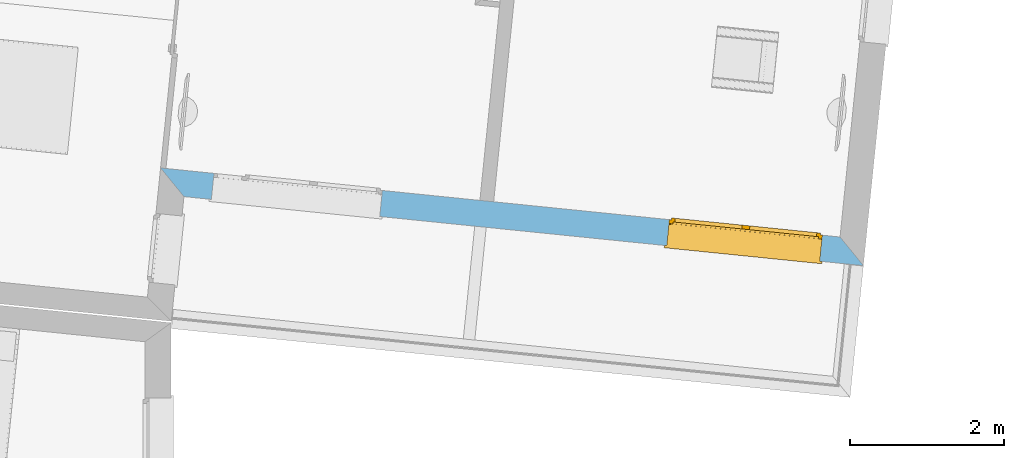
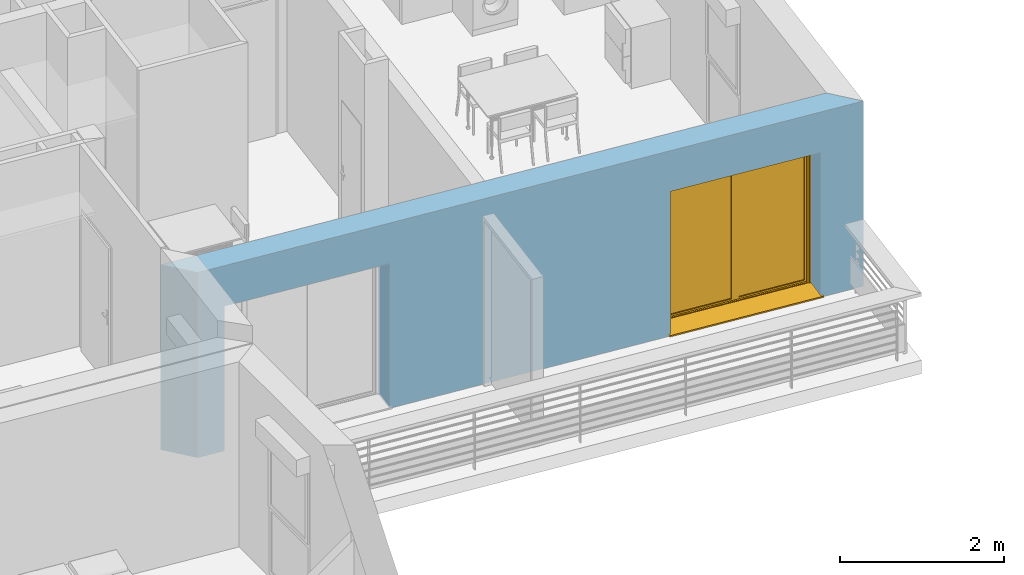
# One storey, part 54 of 164: 1 window, 2 openings, plus 1 element that does not belong to this part.
"""IFC2X3 building model written with IfcOpenShell, lengths in millimetres."""

from ifc_helpers import new_model, entity, si_unit, converted_unit, derived_unit, money_unit, direction, frame, origin_with_axes, place, context, subcontext, project, spatial, polyline, outline, extrude, open_shell, faceted_brep, surface_model, source, transform, mapped, material, layer, layer_set, layer_usage, type_object, element, fill, save


model = new_model("IFC2X3")

# Units and contexts
model_context = context("Model", 3, precision=0.01, world=origin_with_axes(), true_north=direction((0.0, 1.0)))
body_context = subcontext(model_context, "Body", "Model", "MODEL_VIEW")
ifc_project = project(units=[si_unit("LENGTHUNIT", "METRE", prefix="MILLI"), si_unit("AREAUNIT", "SQUARE_METRE"), si_unit("VOLUMEUNIT", "CUBIC_METRE"), converted_unit("PLANEANGLEUNIT", "DEGREE", entity("IfcPlaneAngleMeasure", 0.0174532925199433), si_unit("PLANEANGLEUNIT", "RADIAN"), dimensions=[0, 0, 0, 0, 0, 0, 0]), money_unit("USD"), converted_unit("TIMEUNIT", "Year", entity("IfcTimeMeasure", 31557600.0), si_unit("TIMEUNIT", "SECOND"), dimensions=[0, 0, 1, 0, 0, 0, 0]), si_unit("MASSUNIT", "GRAM", prefix="KILO"), si_unit("THERMODYNAMICTEMPERATUREUNIT", "DEGREE_CELSIUS"), si_unit("LUMINOUSINTENSITYUNIT", "LUMEN"), si_unit("ENERGYUNIT", "JOULE", prefix="MEGA"), derived_unit("THERMALCONDUCTANCEUNIT", [(si_unit("POWERUNIT", "WATT"), 1), (si_unit("LENGTHUNIT", "METRE"), -1), (si_unit("THERMODYNAMICTEMPERATUREUNIT", "KELVIN"), -1)]), derived_unit("SPECIFICHEATCAPACITYUNIT", [(si_unit("ENERGYUNIT", "JOULE"), 1), (si_unit("MASSUNIT", "GRAM", prefix="KILO"), -1), (si_unit("THERMODYNAMICTEMPERATUREUNIT", "KELVIN"), -1)]), derived_unit("MASSDENSITYUNIT", [(si_unit("MASSUNIT", "GRAM", prefix="KILO"), 1), (si_unit("VOLUMEUNIT", "CUBIC_METRE"), -1)])], contexts=[model_context])

# Site, building, storey
site_placement = place(None, origin_with_axes())
site = spatial("IfcSite", under=ifc_project, at=site_placement, Name="Site", CompositionType="ELEMENT")
building_placement = place(site_placement, origin_with_axes())
building = spatial("IfcBuilding", under=site, at=building_placement, Name="Bâtiment", CompositionType="ELEMENT")
storey_placement = place(building_placement, frame((0.0, 0.0, 5750.0), z_axis=(0.0, 0.0, 1.0), x_axis=(1.0, 0.0, 0.0)))
storey = spatial("IfcBuildingStorey", under=building, at=storey_placement, Name="Etage1", CompositionType="ELEMENT", Elevation=5750.0)

# Wall, openings, window
ifc_material_1 = material(Name="Parpaing 312445824")
ifc_layer_1 = layer(ifc_material_1, 180.0, ventilated="UNKNOWN")
ifc_material_2 = material(Name="Isolant styromousse 301821074")
ifc_layer_2 = layer(ifc_material_2, 160.0, ventilated="UNKNOWN")
ifc_layer_set = layer_set([ifc_layer_1, ifc_layer_2], Name="isol int 18+16 0018356637")
ifc_layer_usage = layer_usage(ifc_layer_set, "AXIS2", "POSITIVE", 0.0)
wall_type = type_object("IfcWallType", Name="isol int 18+16 0018356637 340", PredefinedType="NOTDEFINED")
wall_placement = place(storey_placement, frame((2229820.133205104, -620392.5899683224, 0.0), z_axis=(0.0, 0.0, 1.0), x_axis=(0.994875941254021, -0.1011032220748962, 0.0)))
wall = element("IfcWallStandardCase", 1, at=wall_placement, inside=storey, type_object=wall_type, material=ifc_layer_usage, Name="Mur-142", context=body_context, shape_type="SweptSolid", body=[
    extrude(outline(polyline([(0.0, 0.0), (8878.452480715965, 0.0), (8538.452480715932, 339.9999999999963), (-339.9999999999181, 339.9999999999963), (0.0, 0.0)])), origin_with_axes(), (0.0, 0.0, 1.0), 2750.0),
])
opening_1_placement = place(wall_placement, frame((1458.062560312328, 0.0, 0.0), z_axis=(0.0, 0.0, 1.0), x_axis=(1.0, 0.0, 0.0)))
element("IfcOpeningElement", 2, at=opening_1_placement, cuts=wall, Name="Fen-133", context=body_context, shape_type="Brep", body=[
    faceted_brep([(-1100.000000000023, 529.9999999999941, 2150.0), (1099.999999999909, 529.9999999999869, 2150.0), (1100.000000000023, 1234.040591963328, 2150.0), (-1099.999999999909, 1234.040591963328, 2150.0), (-1100.000000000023, 529.9999999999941, 2400.0), (1099.999999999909, 529.9999999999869, 2400.0), (1100.000000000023, 289.999999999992, 2150.0), (1100.000000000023, 289.999999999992, 0.0), (1100.000000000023, 1234.040591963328, 0.0), (-1099.999999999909, 1234.040591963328, 0.0), (-1100.000000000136, 289.9999999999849, 2150.0), (-1100.000000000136, 289.9999999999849, 0.0), (-1100.000000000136, 279.9999999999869, 2150.0), (-1100.000000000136, 279.9999999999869, 2400.0), (1100.000000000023, 279.999999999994, 2400.0), (1100.000000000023, 279.999999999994, 2150.0), (1099.999999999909, -894.0405919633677, 2150.0), (1099.999999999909, -894.0405919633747, 0.0), (-1100.000000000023, -894.0405919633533, 0.0), (-1100.000000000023, -894.0405919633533, 2150.0)], [[[0, 1, 2, 3]], [[1, 0, 4, 5]], [[1, 6, 7, 8, 2]], [[2, 8, 9, 3]], [[10, 0, 3, 9, 11]], [[0, 10, 12, 13, 4]], [[4, 13, 14, 5]], [[6, 1, 5, 14, 15]], [[6, 15, 16, 17, 7]], [[7, 17, 18, 11, 9, 8]], [[12, 10, 11, 18, 19]], [[12, 15, 14, 13]], [[15, 12, 19, 16]], [[19, 18, 17, 16]]]),
])
opening_2_placement = place(wall_placement, frame((7307.912898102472, 0.0, 0.0), z_axis=(0.0, 0.0, 1.0), x_axis=(1.0, 0.0, 0.0)))
opening_2 = element("IfcOpeningElement", 3, at=opening_2_placement, cuts=wall, Name="Fen-207", context=body_context, shape_type="Brep", body=[
    faceted_brep([(-1000.0, 529.9999999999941, 2150.0), (999.9999999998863, 529.9999999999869, 2150.0), (999.9999999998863, 1234.040591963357, 2150.0), (-1000.0, 1234.04059196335, 2150.0), (-1000.0, 529.9999999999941, 2400.0), (999.9999999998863, 529.9999999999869, 2400.0), (999.9999999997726, 289.999999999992, 2150.0), (999.9999999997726, 289.999999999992, 0.0), (999.9999999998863, 1234.040591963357, 0.0), (-1000.0, 1234.04059196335, 0.0), (-1000.000000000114, 289.9999999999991, 2150.0), (-1000.000000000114, 289.9999999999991, 0.0), (-1000.000000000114, 280.0000000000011, 2150.0), (-1000.000000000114, 280.0000000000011, 2400.0), (999.9999999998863, 279.999999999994, 2400.0), (999.9999999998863, 279.999999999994, 2150.0), (999.9999999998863, -894.0405919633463, 2150.0), (999.9999999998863, -894.0405919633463, 0.0), (-1000.000000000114, -894.0405919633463, 0.0), (-1000.000000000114, -894.0405919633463, 2150.0)], [[[0, 1, 2, 3]], [[1, 0, 4, 5]], [[1, 6, 7, 8, 2]], [[2, 8, 9, 3]], [[10, 0, 3, 9, 11]], [[0, 10, 12, 13, 4]], [[14, 5, 4, 13]], [[6, 1, 5, 14, 15]], [[6, 15, 16, 17, 7]], [[7, 17, 18, 11, 9, 8]], [[12, 10, 11, 18, 19]], [[12, 15, 14, 13]], [[15, 12, 19, 16]], [[19, 18, 17, 16]]]),
])
window_style = type_object("IfcWindowStyle", Name="Fenêtre châssis double variable 27", ConstructionType="NOTDEFINED", OperationType="DOUBLE_PANEL_VERTICAL", ParameterTakesPrecedence=False, Sizeable=False)
shared_shape = source(origin_with_axes(), body_context, "Body", "SurfaceModel", [
    surface_model("IfcShellBasedSurfaceModel", [(1000.0, -51.00000000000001, 40.00000000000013), (1000.0, -51.00000000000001, 50.00000000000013), (-1000.0, -51.00000000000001, 50.0), (-1000.0, -51.00000000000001, 40.0), (1030.0, -369.9999999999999, 28.96551724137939), (1030.0, -339.9999999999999, 30.00324289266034), (1000.0, -339.9999999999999, 30.00324289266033), (-1000.0, -339.9999999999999, 30.00324289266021), (-1030.0, -339.9999999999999, 30.00324289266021), (-1030.0, -369.9999999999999, 28.96551724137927), (1030.0, -369.9999999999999, 8.965517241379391), (-1030.0, -369.9999999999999, 8.965517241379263), (1030.0, -359.9999999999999, 18.96551724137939), (-1030.0, -359.9999999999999, 18.96551724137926)], [open_shell([[[0, 1, 2, 3]], [[4, 5, 6, 0, 3, 7, 8, 9]], [[10, 4, 9, 11]], [[12, 10, 11, 13]]])]),
    faceted_brep([(-1000.0, -60.00000000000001, 2400.0), (-997.0, -60.00000000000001, 2400.0), (-997.0, 190.0, 2400.0), (-1000.0, 190.0, 2400.0), (-1000.0, -60.00000000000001, 2150.0), (-997.0, -60.00000000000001, 2150.0), (-997.0, 190.0, 2150.0), (-1000.0, 190.0, 2150.0)], [[[0, 1, 2, 3]], [[4, 5, 1, 0]], [[1, 5, 6, 2]], [[3, 2, 6, 7]], [[0, 3, 7, 4]], [[7, 6, 5, 4]]]),
    faceted_brep([(997.0000000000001, -59.99999999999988, 2400.0), (1000.0, -59.99999999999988, 2400.0), (1000.0, 190.0000000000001, 2400.0), (997.0000000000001, 190.0000000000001, 2400.0), (997.0000000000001, -59.99999999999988, 2150.0), (1000.0, -59.99999999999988, 2150.0), (1000.0, 190.0000000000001, 2150.0), (997.0000000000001, 190.0000000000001, 2150.0)], [[[0, 1, 2, 3]], [[4, 5, 1, 0]], [[1, 5, 6, 2]], [[3, 2, 6, 7]], [[0, 3, 7, 4]], [[7, 6, 5, 4]]]),
    faceted_brep([(-997.0, -60.0, 2150.0), (997.0, -59.99999999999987, 2150.0), (997.0, -59.99999999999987, 2400.0), (-997.0, -60.0, 2400.0), (-997.0, -56.99999999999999, 2150.0), (997.0, -56.99999999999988, 2150.0), (997.0, -56.99999999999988, 2397.0), (997.0, 187.0000000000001, 2397.0), (997.0, 187.0000000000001, 2153.0), (997.0, -37.99999999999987, 2153.0), (997.0, -37.99999999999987, 2150.0), (997.0, 190.0000000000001, 2150.0), (997.0, 190.0000000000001, 2400.0), (-997.0, 190.0, 2400.0), (-997.0, 190.0, 2150.0), (-997.0, -37.99999999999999, 2150.0), (-997.0, -37.99999999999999, 2153.0), (-997.0, 187.0, 2153.0), (-997.0, 187.0, 2397.0), (-997.0, -56.99999999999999, 2397.0)], [[[0, 1, 2, 3]], [[4, 5, 1, 0]], [[1, 5, 6, 7, 8, 9, 10, 11, 12, 2]], [[3, 2, 12, 13]], [[0, 3, 13, 14, 15, 16, 17, 18, 19, 4]], [[19, 6, 5, 4]], [[18, 7, 6, 19]], [[17, 8, 7, 18]], [[16, 9, 8, 17]], [[15, 10, 9, 16]], [[14, 11, 10, 15]], [[13, 12, 11, 14]]]),
    faceted_brep([(-994.0, -40.37442957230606, 2256.419644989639), (-994.0, -41.99999999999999, 2275.0), (-994.0, -40.37442957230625, 2293.580355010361), (-994.0, -35.54711042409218, 2311.596155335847), (-994.0, -27.66471820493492, 2328.5), (-994.0, -16.96675541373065, 2343.77827423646), (-994.0, -3.778274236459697, 2356.96675541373), (-994.0, 11.5, 2367.664718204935), (-994.0, 28.40384466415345, 2375.547110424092), (-994.0, 46.41964498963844, 2380.374429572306), (-994.0, 64.99999999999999, 2382.0), (-994.0, 83.58035501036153, 2380.374429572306), (-994.0, 101.5961553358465, 2375.547110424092), (-994.0, 118.5, 2367.664718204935), (-994.0, 133.7782742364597, 2356.96675541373), (-994.0, 146.9667554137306, 2343.77827423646), (-994.0, 157.6647182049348, 2328.5), (-994.0, 165.5471104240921, 2311.596155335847), (-994.0, 170.3744295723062, 2293.580355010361), (-994.0, 171.9999999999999, 2275.0), (-994.0, 170.3744295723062, 2256.419644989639), (-994.0, 165.5471104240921, 2238.403844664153), (-994.0, 157.6647182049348, 2221.5), (-994.0, 146.9667554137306, 2206.22172576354), (-994.0, 133.7782742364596, 2193.033244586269), (-994.0, 118.4999999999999, 2182.335281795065), (-994.0, 101.5961553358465, 2174.452889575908), (-994.0, 83.58035501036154, 2169.625570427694), (-994.0, 65.00000000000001, 2168.0), (-994.0, 46.4196449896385, 2169.625570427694), (-994.0, 28.40384466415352, 2174.452889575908), (-994.0, 11.50000000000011, 2182.335281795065), (-994.0, -3.778274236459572, 2193.033244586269), (-994.0, -16.9667554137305, 2206.22172576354), (-994.0, -27.66471820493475, 2221.5), (-994.0, -35.54711042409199, 2238.403844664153), (994.0, -40.37442957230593, 2256.419644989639), (994.0, -41.99999999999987, 2275.0), (994.0, -40.37442957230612, 2293.580355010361), (994.0, -35.54711042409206, 2311.596155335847), (994.0, -27.6647182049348, 2328.5), (994.0, -16.96675541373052, 2343.77827423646), (994.0, -3.778274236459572, 2356.96675541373), (994.0, 11.50000000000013, 2367.664718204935), (994.0, 28.40384466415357, 2375.547110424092), (994.0, 46.41964498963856, 2380.374429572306), (994.0, 65.00000000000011, 2382.0), (994.0, 83.58035501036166, 2380.374429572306), (994.0, 101.5961553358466, 2375.547110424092), (994.0, 118.5000000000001, 2367.664718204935), (994.0, 133.7782742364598, 2356.96675541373), (994.0, 146.9667554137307, 2343.77827423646), (994.0, 157.664718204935, 2328.5), (994.0, 165.5471104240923, 2311.596155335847), (994.0, 170.3744295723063, 2293.580355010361), (994.0, 172.0, 2275.0), (994.0, 170.3744295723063, 2256.419644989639), (994.0, 165.5471104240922, 2238.403844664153), (994.0, 157.6647182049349, 2221.5), (994.0, 146.9667554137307, 2206.22172576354), (994.0, 133.7782742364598, 2193.033244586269), (994.0, 118.5000000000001, 2182.335281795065), (994.0, 101.5961553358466, 2174.452889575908), (994.0, 83.58035501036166, 2169.625570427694), (994.0, 65.00000000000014, 2168.0), (994.0, 46.41964498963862, 2169.625570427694), (994.0, 28.40384466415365, 2174.452889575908), (994.0, 11.50000000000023, 2182.335281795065), (994.0, -3.778274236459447, 2193.033244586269), (994.0, -16.96675541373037, 2206.22172576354), (994.0, -27.66471820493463, 2221.5), (994.0, -35.54711042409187, 2238.403844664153)], [[[0, 1, 2, 3, 4, 5, 6, 7, 8, 9, 10, 11, 12, 13, 14, 15, 16, 17, 18, 19, 20, 21, 22, 23, 24, 25, 26, 27, 28, 29, 30, 31, 32, 33, 34, 35]], [[0, 36, 37, 1]], [[1, 37, 38, 2]], [[2, 38, 39, 3]], [[3, 39, 40, 4]], [[4, 40, 41, 5]], [[5, 41, 42, 6]], [[6, 42, 43, 7]], [[7, 43, 44, 8]], [[8, 44, 45, 9]], [[9, 45, 46, 10]], [[10, 46, 47, 11]], [[11, 47, 48, 12]], [[12, 48, 49, 13]], [[13, 49, 50, 14]], [[14, 50, 51, 15]], [[15, 51, 52, 16]], [[16, 52, 53, 17]], [[17, 53, 54, 18]], [[18, 54, 55, 19]], [[19, 55, 56, 20]], [[20, 56, 57, 21]], [[21, 57, 58, 22]], [[22, 58, 59, 23]], [[23, 59, 60, 24]], [[24, 60, 61, 25]], [[25, 61, 62, 26]], [[26, 62, 63, 27]], [[27, 63, 64, 28]], [[28, 64, 65, 29]], [[29, 65, 66, 30]], [[30, 66, 67, 31]], [[31, 67, 68, 32]], [[32, 68, 69, 33]], [[33, 69, 70, 34]], [[34, 70, 71, 35]], [[35, 71, 36, 0]], [[36, 71, 70, 69, 68, 67, 66, 65, 64, 63, 62, 61, 60, 59, 58, 57, 56, 55, 54, 53, 52, 51, 50, 49, 48, 47, 46, 45, 44, 43, 42, 41, 40, 39, 38, 37]]]),
    faceted_brep([(1000.0, -34.99999999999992, 30.0), (1000.0, -34.99999999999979, 2150.0), (1000.0, -59.99999999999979, 2150.0), (1000.0, -59.99999999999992, 30.0), (975.0, -34.99999999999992, 30.0), (975.0, -34.99999999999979, 2150.0), (975.0, -37.99999999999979, 2150.0), (997.0, -37.99999999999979, 2150.0), (997.0, -56.99999999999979, 2150.0), (975.0, -56.99999999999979, 2150.0), (975.0, -59.99999999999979, 2150.0), (975.0, -59.99999999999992, 30.0), (975.0, -56.99999999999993, 30.0), (997.0, -56.99999999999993, 30.0), (997.0, -37.99999999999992, 30.0), (975.0, -37.99999999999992, 30.0)], [[[0, 1, 2, 3]], [[4, 5, 1, 0]], [[1, 5, 6, 7, 8, 9, 10, 2]], [[3, 2, 10, 11]], [[0, 3, 11, 12, 13, 14, 15, 4]], [[15, 6, 5, 4]], [[14, 7, 6, 15]], [[13, 8, 7, 14]], [[12, 9, 8, 13]], [[11, 10, 9, 12]]]),
    faceted_brep([(-1000.0, -34.99999999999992, 30.0), (-1000.0, -59.99999999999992, 30.0), (-1000.0, -59.99999999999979, 2150.0), (-1000.0, -34.99999999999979, 2150.0), (-975.0, -34.99999999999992, 30.0), (-975.0, -37.99999999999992, 30.0), (-997.0, -37.99999999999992, 30.0), (-997.0, -56.99999999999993, 30.0), (-975.0, -56.99999999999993, 30.0), (-975.0, -59.99999999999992, 30.0), (-975.0, -59.99999999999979, 2150.0), (-975.0, -56.99999999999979, 2150.0), (-997.0, -56.99999999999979, 2150.0), (-997.0, -37.99999999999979, 2150.0), (-975.0, -37.99999999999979, 2150.0), (-975.0, -34.99999999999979, 2150.0)], [[[0, 1, 2, 3]], [[0, 4, 5, 6, 7, 8, 9, 1]], [[1, 9, 10, 2]], [[3, 2, 10, 11, 12, 13, 14, 15]], [[4, 0, 3, 15]], [[5, 4, 15, 14]], [[6, 5, 14, 13]], [[7, 6, 13, 12]], [[8, 7, 12, 11]], [[9, 8, 11, 10]]]),
    faceted_brep([(997.0, -46.66666666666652, 2275.0), (997.0, -46.66666666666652, 2266.666666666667), (-997.0, -46.66666666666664, 2266.666666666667), (-997.0, -46.66666666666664, 2275.0), (997.0, -51.66666666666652, 2275.0), (997.0, -51.66666666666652, 2266.666666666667), (997.0, -49.99999999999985, 2250.0), (997.0, -44.99999999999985, 2250.0), (-997.0, -44.99999999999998, 2250.0), (-997.0, -49.99999999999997, 2250.0), (-997.0, -51.66666666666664, 2266.666666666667), (-997.0, -51.66666666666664, 2275.0)], [[[0, 1, 2, 3]], [[4, 5, 6, 7, 1, 0]], [[2, 1, 7, 8]], [[3, 2, 8, 9, 10, 11]], [[3, 11, 4, 0]], [[10, 5, 4, 11]], [[9, 6, 5, 10]], [[8, 7, 6, 9]]]),
    faceted_brep([(-997.0, -44.99999999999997, 2250.0), (997.0, -44.99999999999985, 2250.0), (997.0, -46.66666666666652, 2233.333333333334), (-997.0, -46.66666666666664, 2233.333333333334), (-997.0, -49.99999999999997, 2250.0), (997.0, -49.99999999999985, 2250.0), (997.0, -51.66666666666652, 2233.333333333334), (997.0, -51.66666666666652, 2216.666666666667), (997.0, -49.99999999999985, 2200.0), (997.0, -44.99999999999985, 2200.0), (997.0, -46.66666666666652, 2216.666666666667), (-997.0, -46.66666666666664, 2216.666666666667), (-997.0, -44.99999999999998, 2200.0), (-997.0, -49.99999999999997, 2200.0), (-997.0, -51.66666666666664, 2216.666666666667), (-997.0, -51.66666666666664, 2233.333333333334)], [[[0, 1, 2, 3]], [[4, 5, 1, 0]], [[1, 5, 6, 7, 8, 9, 10, 2]], [[3, 2, 10, 11]], [[0, 3, 11, 12, 13, 14, 15, 4]], [[15, 6, 5, 4]], [[14, 7, 6, 15]], [[13, 8, 7, 14]], [[12, 9, 8, 13]], [[11, 10, 9, 12]]]),
    faceted_brep([(-997.0, -44.99999999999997, 2200.0), (997.0, -44.99999999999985, 2200.0), (997.0, -46.66666666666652, 2183.333333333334), (-997.0, -46.66666666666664, 2183.333333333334), (-997.0, -49.99999999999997, 2200.0), (997.0, -49.99999999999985, 2200.0), (997.0, -51.66666666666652, 2183.333333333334), (997.0, -51.66666666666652, 2166.666666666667), (997.0, -49.99999999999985, 2150.000000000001), (997.0, -44.99999999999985, 2150.000000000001), (997.0, -46.66666666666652, 2166.666666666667), (-997.0, -46.66666666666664, 2166.666666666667), (-997.0, -44.99999999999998, 2150.000000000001), (-997.0, -49.99999999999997, 2150.000000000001), (-997.0, -51.66666666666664, 2166.666666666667), (-997.0, -51.66666666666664, 2183.333333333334)], [[[0, 1, 2, 3]], [[4, 5, 1, 0]], [[1, 5, 6, 7, 8, 9, 10, 2]], [[3, 2, 10, 11]], [[0, 3, 11, 12, 13, 14, 15, 4]], [[15, 6, 5, 4]], [[14, 7, 6, 15]], [[13, 8, 7, 14]], [[12, 9, 8, 13]], [[11, 10, 9, 12]]]),
    faceted_brep([(-975.0, 0.0, 2100.0), (-1000.0, 0.0, 2100.0), (-1000.0, -50.00000000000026, 2100.0), (-950.0, -50.00000000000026, 2100.0), (-950.0, -25.00000000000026, 2100.0), (-975.0, -25.00000000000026, 2100.0), (-975.0, 0.0, 50.00000000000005), (-1000.0, 0.0, 50.00000000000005), (-1000.0, -50.00000000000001, 50.00000000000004), (-950.0, -50.00000000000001, 50.00000000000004), (-950.0, -25.00000000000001, 50.00000000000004), (-975.0, -25.00000000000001, 50.00000000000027)], [[[0, 1, 2, 3, 4, 5]], [[6, 7, 1, 0]], [[1, 7, 8, 2]], [[2, 8, 9, 3]], [[4, 3, 9, 10]], [[10, 11, 5, 4]], [[5, 11, 6, 0]], [[11, 10, 9, 8, 7, 6]]]),
    faceted_brep([(950.0, -25.00000000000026, 2100.0), (950.0, -50.00000000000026, 2100.0), (1000.0, -50.00000000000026, 2100.0), (1000.0, 0.0, 2100.0), (975.0, 0.0, 2100.0), (975.0, -25.00000000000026, 2100.0), (950.0, -25.00000000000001, 50.00000000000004), (950.0, -50.00000000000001, 50.00000000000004), (1000.0, -50.00000000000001, 50.00000000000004), (1000.0, 0.0, 50.00000000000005), (975.0, 0.0, 50.00000000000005), (975.0, -25.00000000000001, 50.00000000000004)], [[[0, 1, 2, 3, 4, 5]], [[6, 7, 1, 0]], [[8, 2, 1, 7]], [[9, 3, 2, 8]], [[4, 3, 9, 10]], [[10, 11, 5, 4]], [[5, 11, 6, 0]], [[11, 10, 9, 8, 7, 6]]]),
    faceted_brep([(950.0, -25.00000000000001, 50.00000000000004), (950.0, -50.00000000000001, 50.00000000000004), (1000.0, -50.00000000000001, 50.00000000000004), (1000.0, 0.0, 50.00000000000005), (975.0, 0.0, 50.00000000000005), (975.0, -25.00000000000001, 50.00000000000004), (-950.0, -25.00000000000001, 50.00000000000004), (-950.0, -50.00000000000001, 50.00000000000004), (-1000.0, -50.00000000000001, 50.00000000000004), (-1000.0, -50.0, 0.0), (1000.0, -50.0, 0.0), (1000.0, 0.0, 0.0), (-975.0, 0.0, 24.99999999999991), (975.0, 0.0, 24.99999999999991), (-1000.0, 0.0, 0.0), (-1000.0, 0.0, 50.00000000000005), (-975.0, 0.0, 50.00000000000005), (975.0, -25.0, 24.99999999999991), (-975.0, -25.0, 24.99999999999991), (-975.0, -25.00000000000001, 50.00000000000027)], [[[0, 1, 2, 3, 4, 5]], [[6, 7, 1, 0]], [[8, 9, 10, 2, 1, 7]], [[11, 3, 2, 10]], [[12, 13, 4, 3, 11, 14, 15, 16]], [[13, 17, 5, 4]], [[5, 17, 18, 19, 6, 0]], [[19, 16, 15, 8, 7, 6]], [[15, 14, 9, 8]], [[14, 11, 10, 9]], [[12, 18, 17, 13]], [[19, 18, 12, 16]]]),
    faceted_brep([(-975.0, 0.0, 2100.0), (-1000.0, 0.0, 2100.0), (-1000.0, 0.0, 2150.0), (1000.0, 0.0, 2150.0), (1000.0, 0.0, 2100.0), (975.0, 0.0, 2100.0), (975.0, 0.0, 2125.0), (-975.0, 0.0, 2125.0), (-975.0, -25.00000000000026, 2100.0), (-950.0, -25.00000000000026, 2100.0), (-950.0, -50.00000000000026, 2100.0), (-1000.0, -50.00000000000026, 2100.0), (-1000.0, -50.00000000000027, 2150.0), (1000.0, -50.00000000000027, 2150.0), (1000.0, -50.00000000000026, 2100.0), (975.0, -25.00000000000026, 2100.0), (950.0, -50.00000000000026, 2100.0), (950.0, -25.00000000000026, 2100.0), (975.0, -25.00000000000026, 2125.0), (-975.0, -25.00000000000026, 2125.0)], [[[0, 1, 2, 3, 4, 5, 6, 7]], [[8, 9, 10, 11, 1, 0]], [[2, 1, 11, 12]], [[3, 2, 12, 13]], [[4, 3, 13, 14]], [[15, 5, 4, 14, 16, 17]], [[5, 15, 18, 6]], [[6, 18, 19, 7]], [[7, 19, 8, 0]], [[17, 9, 8, 19, 18, 15]], [[17, 16, 10, 9]], [[14, 13, 12, 11, 10, 16]]]),
    faceted_brep([(-925.0, -25.00000000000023, 2075.0), (-925.0, 24.99999999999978, 2075.0), (-975.0, 24.99999999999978, 2075.0), (-975.0, -25.00000000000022, 2075.0), (-925.0, -24.99999999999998, 75.00000000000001), (-925.0, 25.00000000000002, 75.00000000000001), (-975.0, 25.00000000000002, 75.00000000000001), (-975.0, -24.99999999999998, 75.00000000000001)], [[[0, 1, 2, 3]], [[4, 5, 1, 0]], [[1, 5, 6, 2]], [[3, 2, 6, 7]], [[0, 3, 7, 4]], [[7, 6, 5, 4]]]),
    faceted_brep([(-49.99999999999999, -25.00000000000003, 75.00000000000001), (-49.99999999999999, 24.99999999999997, 75.00000000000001), (0.0, 24.99999999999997, 75.00000000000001), (0.0, -25.00000000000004, 75.00000000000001), (-49.99999999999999, -25.00000000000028, 2075.0), (-49.99999999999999, 24.99999999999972, 2075.0), (0.0, 24.99999999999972, 2075.0), (0.0, -25.00000000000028, 2075.0)], [[[0, 1, 2, 3]], [[4, 5, 1, 0]], [[1, 5, 6, 2]], [[3, 2, 6, 7]], [[0, 3, 7, 4]], [[7, 6, 5, 4]]]),
    faceted_brep([(0.0, -25.00000000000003, 25.0), (0.0, 24.99999999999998, 25.00000000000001), (0.0, 24.99999999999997, 75.00000000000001), (0.0, -25.00000000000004, 75.00000000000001), (-975.0, -24.99999999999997, 25.0), (-975.0, 25.00000000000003, 25.00000000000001), (-975.0, 25.00000000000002, 75.00000000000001), (-925.0, 25.00000000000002, 75.00000000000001), (-49.99999999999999, 24.99999999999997, 75.00000000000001), (-49.99999999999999, -25.00000000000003, 75.00000000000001), (-925.0, -24.99999999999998, 75.00000000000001), (-975.0, -24.99999999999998, 75.00000000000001)], [[[0, 1, 2, 3]], [[4, 5, 1, 0]], [[1, 5, 6, 7, 8, 2]], [[3, 2, 8, 9]], [[0, 3, 9, 10, 11, 4]], [[11, 6, 5, 4]], [[10, 7, 6, 11]], [[9, 8, 7, 10]]]),
    faceted_brep([(-975.0, -25.00000000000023, 2125.0), (-975.0, 24.99999999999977, 2125.0), (-975.0, 24.99999999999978, 2075.0), (-975.0, -25.00000000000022, 2075.0), (0.0, -25.00000000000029, 2125.0), (0.0, 24.99999999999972, 2125.0), (0.0, 24.99999999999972, 2075.0), (-49.99999999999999, 24.99999999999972, 2075.0), (-925.0, 24.99999999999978, 2075.0), (-925.0, -25.00000000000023, 2075.0), (-49.99999999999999, -25.00000000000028, 2075.0), (0.0, -25.00000000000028, 2075.0)], [[[0, 1, 2, 3]], [[4, 5, 1, 0]], [[1, 5, 6, 7, 8, 2]], [[3, 2, 8, 9]], [[0, 3, 9, 10, 11, 4]], [[11, 6, 5, 4]], [[10, 7, 6, 11]], [[9, 8, 7, 10]]]),
    surface_model("IfcShellBasedSurfaceModel", [(-925.0, -10.00000000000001, 75.00000000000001), (-49.99999999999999, -10.00000000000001, 75.00000000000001), (-49.99999999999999, -10.00000000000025, 2075.0), (-925.0, -10.00000000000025, 2075.0)], [open_shell([[[0, 1, 2, 3]]])]),
    surface_model("IfcShellBasedSurfaceModel", [(-925.0, 9.999999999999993, 75.00000000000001), (-925.0, 9.99999999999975, 2075.0), (-49.99999999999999, 9.99999999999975, 2075.0), (-49.99999999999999, 9.999999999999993, 75.00000000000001)], [open_shell([[[0, 1, 2, 3]]])]),
    faceted_brep([(49.99999999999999, -25.00000000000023, 2075.0), (49.99999999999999, 24.99999999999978, 2075.0), (0.0, 24.99999999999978, 2075.0), (0.0, -25.00000000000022, 2075.0), (49.99999999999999, -24.99999999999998, 75.00000000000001), (49.99999999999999, 25.00000000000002, 75.00000000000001), (0.0, 25.00000000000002, 75.00000000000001), (0.0, -24.99999999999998, 75.00000000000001)], [[[0, 1, 2, 3]], [[4, 5, 1, 0]], [[1, 5, 6, 2]], [[3, 2, 6, 7]], [[0, 3, 7, 4]], [[7, 6, 5, 4]]]),
    faceted_brep([(925.0, -25.00000000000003, 75.00000000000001), (925.0, 24.99999999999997, 75.00000000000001), (975.0, 24.99999999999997, 75.00000000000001), (975.0, -25.00000000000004, 75.00000000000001), (925.0, -25.00000000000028, 2075.0), (925.0, 24.99999999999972, 2075.0), (975.0, 24.99999999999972, 2075.0), (975.0, -25.00000000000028, 2075.0)], [[[0, 1, 2, 3]], [[4, 5, 1, 0]], [[1, 5, 6, 2]], [[3, 2, 6, 7]], [[0, 3, 7, 4]], [[7, 6, 5, 4]]]),
    faceted_brep([(975.0, -25.00000000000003, 25.0), (975.0, 24.99999999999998, 25.00000000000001), (975.0, 24.99999999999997, 75.00000000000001), (975.0, -25.00000000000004, 75.00000000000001), (0.0, -24.99999999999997, 25.0), (0.0, 25.00000000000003, 25.00000000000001), (0.0, 25.00000000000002, 75.00000000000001), (49.99999999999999, 25.00000000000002, 75.00000000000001), (925.0, 24.99999999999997, 75.00000000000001), (925.0, -25.00000000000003, 75.00000000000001), (49.99999999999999, -24.99999999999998, 75.00000000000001), (0.0, -24.99999999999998, 75.00000000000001)], [[[0, 1, 2, 3]], [[4, 5, 1, 0]], [[1, 5, 6, 7, 8, 2]], [[3, 2, 8, 9]], [[0, 3, 9, 10, 11, 4]], [[11, 6, 5, 4]], [[10, 7, 6, 11]], [[9, 8, 7, 10]]]),
    faceted_brep([(0.0, -25.00000000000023, 2125.0), (0.0, 24.99999999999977, 2125.0), (0.0, 24.99999999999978, 2075.0), (0.0, -25.00000000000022, 2075.0), (975.0, -25.00000000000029, 2125.0), (975.0, 24.99999999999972, 2125.0), (975.0, 24.99999999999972, 2075.0), (925.0, 24.99999999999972, 2075.0), (49.99999999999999, 24.99999999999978, 2075.0), (49.99999999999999, -25.00000000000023, 2075.0), (925.0, -25.00000000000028, 2075.0), (975.0, -25.00000000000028, 2075.0)], [[[0, 1, 2, 3]], [[4, 5, 1, 0]], [[1, 5, 6, 7, 8, 2]], [[3, 2, 8, 9]], [[0, 3, 9, 10, 11, 4]], [[11, 6, 5, 4]], [[10, 7, 6, 11]], [[9, 8, 7, 10]]]),
    surface_model("IfcShellBasedSurfaceModel", [(49.99999999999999, -10.00000000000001, 75.00000000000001), (925.0, -10.00000000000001, 75.00000000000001), (925.0, -10.00000000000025, 2075.0), (49.99999999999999, -10.00000000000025, 2075.0)], [open_shell([[[0, 1, 2, 3]]])]),
    surface_model("IfcShellBasedSurfaceModel", [(49.99999999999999, 9.999999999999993, 75.00000000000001), (49.99999999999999, 9.99999999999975, 2075.0), (925.0, 9.99999999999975, 2075.0), (925.0, 9.999999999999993, 75.00000000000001)], [open_shell([[[0, 1, 2, 3]]])]),
])
window_placement = place(opening_2_placement, frame((-999.9999999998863, 0.0, 0.0), z_axis=(0.0, 0.0, 1.0), x_axis=(1.0, 0.0, 0.0)))
window = element("IfcWindow", 4, at=window_placement, inside=storey, type_object=window_style, Name="Fen-207", OverallHeight=2150.0, OverallWidth=2000.0, context=body_context, shape_type="MappedRepresentation", body=[
    mapped(shared_shape, transform((1000.0, 339.9999999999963, 0.0))),
])
fill(opening_2, window)

save(model, "model.ifc")
